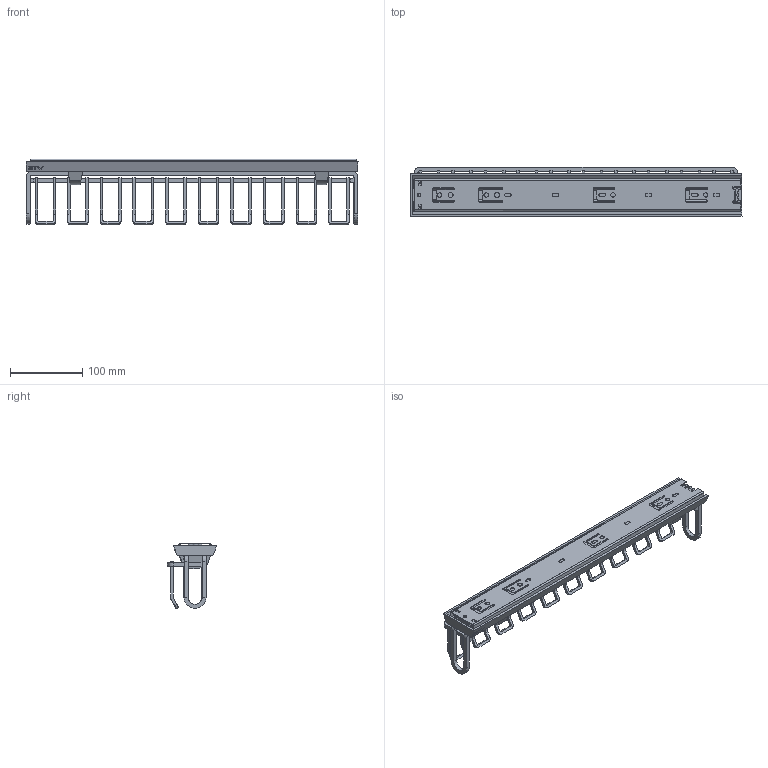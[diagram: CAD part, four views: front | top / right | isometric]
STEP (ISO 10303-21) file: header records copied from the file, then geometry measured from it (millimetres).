
FILE_DESCRIPTION(/* description */ (''),/* implementation_level */ '2;1');
FILE_NAME(/* name */ 'D:\$Workingspace\Designs\Meblowka\uproszczenia\garderoba smart\W-WKRP…-GX.stp',/* time_stamp */ '2019-01-02T09:06:21+01:00',/* author */ ('tomaszw'),/* organization */ (''),/* preprocessor_version */ 'ST-DEVELOPER v17',/* originating_system */ 'Autodesk Inventor 2019',/* authorisation */ '');
FILE_SCHEMA (('AUTOMOTIVE_DESIGN { 1 0 10303 214 3 1 1 }'));
Length unit declared in the file: millimetre
Products named in the file (10): złożenie z uchwyt na krawaty i p
aski 11_2017_upr; PPD_2; druciak na krawaty oraz paski_upr; SM 4x16; MD_1_02; PK-0H45-450-GX; Blokada_5; PK-0H45_1-450-GX; PK-0H45_2-450-GX; PK-0H45_3-450-GX
Assembly tree (11 placements, depth 3):
  złożenie z uchwyt na krawaty i p
aski 11_2017_upr
    PPD_2
    MD_1_02  x2
    druciak na krawaty oraz paski_upr
    SM 4x16  x2
    PK-0H45-450-GX
      Blokada_5
      PK-0H45_1-450-GX
      PK-0H45_2-450-GX
      PK-0H45_3-450-GX
Bounding box: 458.03 x 67.97 x 90.39 mm (x, y, z)
Volume: 242892.1 mm3; surface area: 294796.4 mm2
Topology: 21 solids, 21 shells, 692 faces, 1917 edges, 1278 vertices
Faces by surface type: plane 418, cylinder 232, cone 30, bspline 12
Full cylindrical faces by diameter (mm): 4 x2, 4.3 x1, 4.5 x2, 5 x1, 5.1 x1, 6 x4, 7 x2, 8 x2, 8.3 x1
Entity records: 21723 total; most frequent: CARTESIAN_POINT 4010, ORIENTED_EDGE 3638, DIRECTION 3576, EDGE_CURVE 1819, LINE 1284, VECTOR 1284, VERTEX_POINT 1206, AXIS2_PLACEMENT_3D 1146
